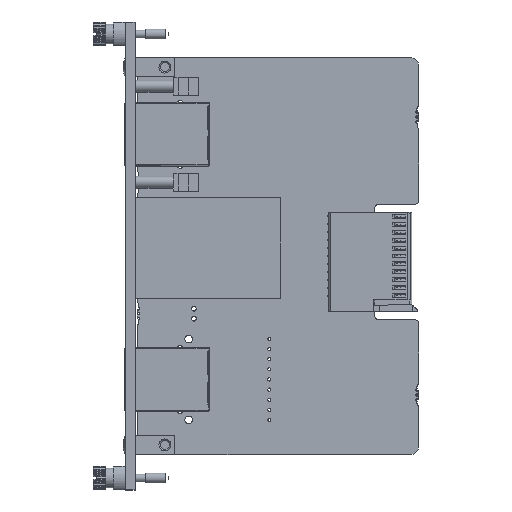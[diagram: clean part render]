
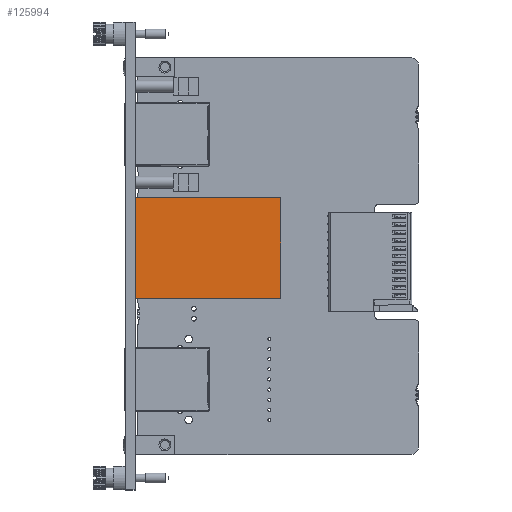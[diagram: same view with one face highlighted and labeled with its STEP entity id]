
A CAD part, top view. The second image highlights one B-rep face of the part: STEP entity #125994.
In plain terms, the highlighted planar face has unit normal (0, 0, 1).
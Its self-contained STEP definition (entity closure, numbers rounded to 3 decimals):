
#2059=PLANE('',#132875);
#7192=FACE_OUTER_BOUND('',#13711,.T.);
#13711=EDGE_LOOP('',(#83442,#83443,#83444,#83445));
#20863=LINE('',#181694,#34342);
#20866=LINE('',#181700,#34345);
#20869=LINE('',#181705,#34348);
#20874=LINE('',#181712,#34353);
#34342=VECTOR('',#145167,10.);
#34345=VECTOR('',#145172,10.);
#34348=VECTOR('',#145177,10.);
#34353=VECTOR('',#145184,10.);
#51286=VERTEX_POINT('',#181691);
#51287=VERTEX_POINT('',#181693);
#51289=VERTEX_POINT('',#181699);
#51290=VERTEX_POINT('',#181704);
#63710=EDGE_CURVE('',#51287,#51286,#20863,.T.);
#63713=EDGE_CURVE('',#51289,#51287,#20866,.T.);
#63716=EDGE_CURVE('',#51290,#51289,#20869,.T.);
#63721=EDGE_CURVE('',#51286,#51290,#20874,.T.);
#83442=ORIENTED_EDGE('',*,*,#63721,.T.);
#83443=ORIENTED_EDGE('',*,*,#63716,.T.);
#83444=ORIENTED_EDGE('',*,*,#63713,.T.);
#83445=ORIENTED_EDGE('',*,*,#63710,.T.);
#125994=ADVANCED_FACE('',(#7192),#2059,.T.);
#132875=AXIS2_PLACEMENT_3D('',#181714,#145187,#145188);
#145167=DIRECTION('',(0.,-1.,0.));
#145172=DIRECTION('',(-1.,0.,0.));
#145177=DIRECTION('',(0.,1.,0.));
#145184=DIRECTION('',(1.,0.,0.));
#145187=DIRECTION('center_axis',(0.,0.,
1.));
#145188=DIRECTION('ref_axis',(1.,0.,0.));
#181691=CARTESIAN_POINT('',(-38.33,-10.704,11.9));
#181693=CARTESIAN_POINT('',(-38.33,14.696,11.9));
#181694=CARTESIAN_POINT('',(-38.33,-10.704,11.9));
#181699=CARTESIAN_POINT('',(0.79,14.696,11.9));
#181700=CARTESIAN_POINT('',(-38.33,14.696,11.9));
#181704=CARTESIAN_POINT('',(0.79,-10.704,11.9));
#181705=CARTESIAN_POINT('',(0.79,14.696,11.9));
#181712=CARTESIAN_POINT('',(0.79,-10.704,11.9));
#181714=CARTESIAN_POINT('Origin',(-18.77,1.996,11.9));
